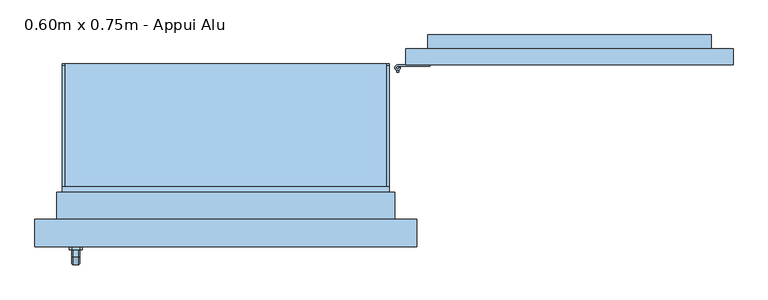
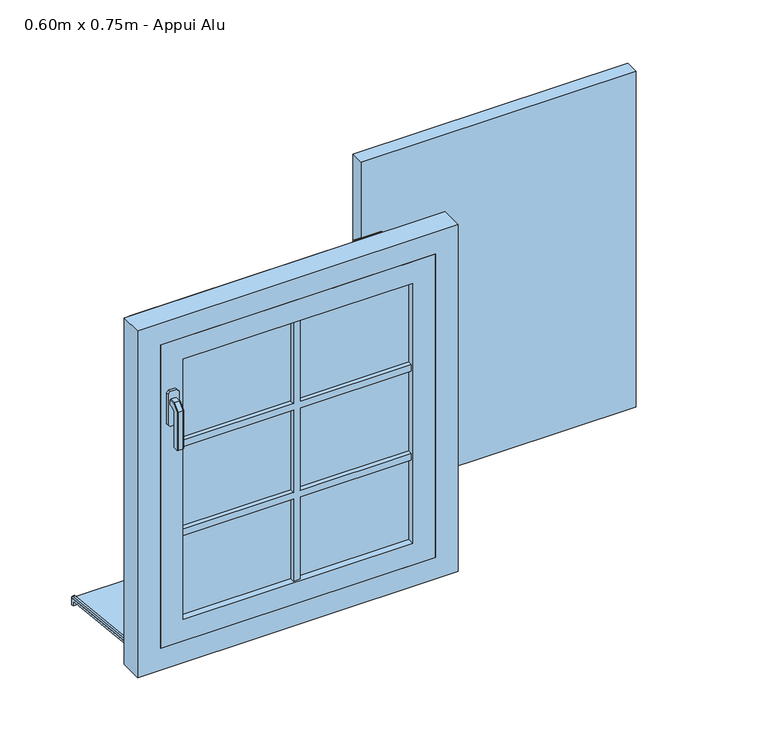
"""IFC4 building model written with IfcOpenShell, lengths in millimetres: window geometry, 1 Vantail droit - Volet et petits bois : 0.60m x 0.75m - Appui Alu."""

from ifc_helpers import new_model, si_unit, point, frame, frame_2d, origin, place, context, project, spatial, polyline, circle_curve, trimmed, segment, composite_curve, outline, extrude, faceted_brep, source, transform, mapped, element, save
from ifc_brep_helpers import plane_surface, cylinder_surface, advanced_brep


def window_0_60m_x_0_75m_appui_alu_5fc1b312(model_context):
    return source(origin(), model_context, "Body", "SolidModel", [
        extrude(outline(polyline([(930.0, 173.0), (330.0, 173.0), (330.0, 203.0), (930.0, 203.0), (930.0, 173.0)])), frame((0.0, 0.0, 775.0), z_axis=(0.0, 0.0, 1.0), x_axis=(1.0, 0.0, 0.0)), (0.0, 0.0, 1.0), 775.0),
        advanced_brep(
        [(310.0, 168.0, 975.0), (320.0, 168.0, 975.0), (310.0, 168.0, 950.0), (320.0, 168.0, 950.0), (317.0, 163.4174243, 955.0), (313.0, 163.4174243, 955.0), (313.0, 163.4174243, 965.0), (317.0, 163.4174243, 965.0), (313.0, 160.0, 965.0), (317.0, 160.0, 965.0), (317.0, 160.0, 955.0), (313.0, 160.0, 955.0)],
        [
            (0, 1, circle_curve(frame((315.0, 168.0, 975.0), z_axis=(0.0, 0.0, 1.0), x_axis=(1.0, 0.0, 0.0)), 5.0)),
            (1, 0, circle_curve(frame((315.0, 168.0, 975.0), z_axis=(0.0, 0.0, 1.0), x_axis=(1.0, 0.0, 0.0)), 5.0)),
            (2, 3, circle_curve(frame((315.0, 168.0, 950.0), z_axis=(0.0, 0.0, -1.0), x_axis=(1.0, 0.0, 0.0)), 5.0)),
            (3, 2, circle_curve(frame((315.0, 168.0, 950.0), z_axis=(0.0, 0.0, -1.0), x_axis=(1.0, 0.0, 0.0)), 5.0)),
            (0, 2),
            (3, 1),
            (4, 5, circle_curve(frame((315.0, 168.0, 955.0), z_axis=(0.0, 0.0, -1.0), x_axis=(1.0, 0.0, 0.0)), 5.0)),
            (5, 6),
            (6, 7, circle_curve(frame((315.0, 168.0, 965.0), z_axis=(0.0, 0.0, 1.0), x_axis=(1.0, 0.0, 0.0)), 5.0)),
            (7, 4),
            (8, 9),
            (9, 7),
            (6, 8),
            (10, 11),
            (11, 5),
            (4, 10),
            (9, 10),
            (11, 8),
        ],
        [
            plane_surface(frame((320.0, 168.0, 975.0), z_axis=(0.0, 0.0, 1.0), x_axis=(0.0, 1.0, 0.0))),
            plane_surface(frame((320.0, 168.0, 950.0), z_axis=(0.0, 0.0, -1.0), x_axis=(0.0, -1.0, 0.0))),
            cylinder_surface(frame((315.0, 168.0, 950.0), z_axis=(0.0, 0.0, 1.0), x_axis=(1.0, 0.0, 0.0)), 5.0),
            plane_surface(frame((317.0, 160.0, 965.0), z_axis=(0.0, 0.0, 1.0), x_axis=(0.0, 1.0, 0.0))),
            plane_surface(frame((317.0, 160.0, 955.0), z_axis=(0.0, 0.0, -1.0), x_axis=(0.0, -1.0, 0.0))),
            plane_surface(frame((317.0, 160.0, 965.0), z_axis=(1.0, 0.0, 0.0), x_axis=(0.0, 0.0, -1.0))),
            plane_surface(frame((313.0, 165.0, 965.0), z_axis=(-1.0, 0.0, 0.0), x_axis=(0.0, 0.0, -1.0))),
            plane_surface(frame((313.0, 160.0, 965.0), z_axis=(0.0, -1.0, 0.0), x_axis=(0.0, 0.0, -1.0))),
        ],
        [
            (0, [[1, 2]]),
            (1, [[3, 4]]),
            (2, [[-1, 5, -4, 6], [7, 8, 9, 10]]),
            (2, [[-2, -6, -3, -5]]),
            (3, [[11, 12, -9, 13]]),
            (4, [[14, 15, -7, 16]]),
            (5, [[17, -16, -10, -12]]),
            (6, [[18, -13, -8, -15]]),
            (7, [[-11, -18, -14, -17]]),
        ],
    ),
        extrude(outline(composite_curve([segment(polyline([(315.0, 173.0), (374.3092325, 173.0), (374.3092325, 170.5), (315.0, 170.5)]), True, "CONTINUOUS"), segment(trimmed(circle_curve(frame_2d((315.0, 168.0)), 2.5), [point((315.0, 170.5))], [point((317.5, 168.0))], True, "CARTESIAN"), True, "CONTINUOUS"), segment(polyline([(317.5, 168.0), (320.0, 168.0)]), True, "CONTINUOUS"), segment(trimmed(circle_curve(frame_2d((315.0, 168.0)), 5.0), [point((320.0, 168.0))], [point((315.0, 173.0))], False, "CARTESIAN"), True, "CONTINUOUS")], self_intersect=False)), frame((0.0, 0.0, 975.0), z_axis=(0.0, 0.0, 1.0), x_axis=(1.0, 0.0, 0.0)), (0.0, 0.0, 1.0), 25.0),
        extrude(outline(composite_curve([segment(trimmed(circle_curve(frame_2d((315.0, 168.0)), 2.5), [point((312.5, 168.0))], [point((317.5, 168.0))], False, "CARTESIAN"), True, "CONTINUOUS"), segment(trimmed(circle_curve(frame_2d((315.0, 168.0)), 2.5), [point((317.5, 168.0))], [point((312.5, 168.0))], False, "CARTESIAN"), True, "CONTINUOUS")], self_intersect=False)), frame((0.0, 0.0, 975.0), z_axis=(0.0, 0.0, 1.0), x_axis=(1.0, 0.0, 0.0)), (0.0, 0.0, 1.0), 25.0),
        advanced_brep(
        [(310.0, 168.0, 1350.0), (320.0, 168.0, 1350.0), (310.0, 168.0, 1325.0), (320.0, 168.0, 1325.0), (313.0, 163.4174243, 1340.0), (317.0, 163.4174243, 1340.0), (317.0, 163.4174243, 1330.0), (313.0, 163.4174243, 1330.0), (313.0, 160.0, 1340.0), (317.0, 160.0, 1340.0), (313.0, 160.0, 1330.0), (317.0, 160.0, 1330.0)],
        [
            (0, 1, circle_curve(frame((315.0, 168.0, 1350.0), z_axis=(0.0, 0.0, 1.0), x_axis=(1.0, 0.0, 0.0)), 5.0)),
            (1, 0, circle_curve(frame((315.0, 168.0, 1350.0), z_axis=(0.0, 0.0, 1.0), x_axis=(1.0, 0.0, 0.0)), 5.0)),
            (2, 3, circle_curve(frame((315.0, 168.0, 1325.0), z_axis=(0.0, 0.0, -1.0), x_axis=(1.0, 0.0, 0.0)), 5.0)),
            (3, 2, circle_curve(frame((315.0, 168.0, 1325.0), z_axis=(0.0, 0.0, -1.0), x_axis=(1.0, 0.0, 0.0)), 5.0)),
            (0, 2),
            (3, 1),
            (4, 5, circle_curve(frame((315.0, 168.0, 1340.0), z_axis=(0.0, 0.0, 1.0), x_axis=(1.0, 0.0, 0.0)), 5.0)),
            (5, 6),
            (6, 7, circle_curve(frame((315.0, 168.0, 1330.0), z_axis=(0.0, 0.0, -1.0), x_axis=(1.0, 0.0, 0.0)), 5.0)),
            (7, 4),
            (8, 9),
            (9, 5),
            (4, 8),
            (10, 7),
            (6, 11),
            (11, 10),
            (8, 10),
            (11, 9),
        ],
        [
            plane_surface(frame((320.0, 168.0, 1350.0), z_axis=(0.0, 0.0, 1.0), x_axis=(0.0, 1.0, 0.0))),
            plane_surface(frame((320.0, 168.0, 1325.0), z_axis=(0.0, 0.0, -1.0), x_axis=(0.0, -1.0, 0.0))),
            cylinder_surface(frame((315.0, 168.0, 1325.0), z_axis=(0.0, 0.0, 1.0), x_axis=(1.0, 0.0, 0.0)), 5.0),
            plane_surface(frame((313.0, 160.0, 1340.0), z_axis=(0.0, 0.0, 1.0), x_axis=(1.0, 0.0, 0.0))),
            plane_surface(frame((313.0, 160.0, 1330.0), z_axis=(0.0, 0.0, -1.0), x_axis=(-1.0, 0.0, 0.0))),
            plane_surface(frame((313.0, 160.0, 1340.0), z_axis=(0.0, -1.0, 0.0), x_axis=(0.0, 0.0, -1.0))),
            plane_surface(frame((317.0, 160.0, 1340.0), z_axis=(1.0, 0.0, 0.0), x_axis=(0.0, 0.0, -1.0))),
            plane_surface(frame((313.0, 163.4174243, 1340.0), z_axis=(-1.0, 0.0, 0.0), x_axis=(0.0, 0.0, -1.0))),
        ],
        [
            (0, [[1, 2]]),
            (1, [[3, 4]]),
            (2, [[-1, 5, -4, 6], [7, 8, 9, 10]]),
            (2, [[-2, -6, -3, -5]]),
            (3, [[11, 12, -7, 13]]),
            (4, [[14, -9, 15, 16]]),
            (5, [[-11, 17, -16, 18]]),
            (6, [[-12, -18, -15, -8]]),
            (7, [[-13, -10, -14, -17]]),
        ],
    ),
        extrude(outline(composite_curve([segment(polyline([(315.0, 173.0), (374.3092325, 173.0), (374.3092325, 170.5), (315.0, 170.5)]), True, "CONTINUOUS"), segment(trimmed(circle_curve(frame_2d((315.0, 168.0)), 2.5), [point((315.0, 170.5))], [point((317.5, 168.0))], True, "CARTESIAN"), True, "CONTINUOUS"), segment(polyline([(317.5, 168.0), (320.0, 168.0)]), True, "CONTINUOUS"), segment(trimmed(circle_curve(frame_2d((315.0, 168.0)), 5.0), [point((320.0, 168.0))], [point((315.0, 173.0))], False, "CARTESIAN"), True, "CONTINUOUS")], self_intersect=False)), frame((0.0, 0.0, 1350.0), z_axis=(0.0, 0.0, 1.0), x_axis=(1.0, 0.0, 0.0)), (0.0, 0.0, 1.0), 25.0),
        extrude(outline(composite_curve([segment(trimmed(circle_curve(frame_2d((315.0, 168.0)), 2.5), [point((312.5, 168.0))], [point((317.5, 168.0))], False, "CARTESIAN"), True, "CONTINUOUS"), segment(trimmed(circle_curve(frame_2d((315.0, 168.0)), 2.5), [point((317.5, 168.0))], [point((312.5, 168.0))], False, "CARTESIAN"), True, "CONTINUOUS")], self_intersect=False)), frame((0.0, 0.0, 1350.0), z_axis=(0.0, 0.0, 1.0), x_axis=(1.0, 0.0, 0.0)), (0.0, 0.0, 1.0), 25.0),
        extrude(outline(polyline([(1310.0, 890.0), (1310.0, 757.8528094), (1015.0, 370.0007252), (1015.0, 502.1479158), (1310.0, 890.0)])), frame((0.0, 203.0, 0.0), z_axis=(0.0, 1.0, 0.0), x_axis=(0.0, 0.0, 1.0)), (0.0, 0.0, 1.0), 25.0),
        extrude(outline(polyline([(370.0, 228.0), (890.0, 228.0), (890.0, 203.0), (370.0, 203.0), (370.0, 228.0)])), frame((0.0, 0.0, 1310.0), z_axis=(0.0, 0.0, 1.0), x_axis=(1.0, 0.0, 0.0)), (0.0, 0.0, 1.0), 80.0),
        extrude(outline(polyline([(370.0, 228.0), (890.0, 228.0), (890.0, 203.0), (370.0, 203.0), (370.0, 228.0)])), frame((0.0, 0.0, 935.0), z_axis=(0.0, 0.0, 1.0), x_axis=(1.0, 0.0, 0.0)), (0.0, 0.0, 1.0), 80.0),
        extrude(outline(polyline([(1310.0, -250.0), (1295.0, -250.0), (1295.0, -7.5), (1105.0, -7.5), (1105.0, -250.0), (1090.0, -250.0), (1090.0, -7.5), (900.0, -7.5), (900.0, 7.5), (1090.0, 7.5), (1090.0, 250.0), (1105.0, 250.0), (1105.0, 7.5), (1295.0, 7.5), (1295.0, 250.0), (1310.0, 250.0), (1310.0, 7.5), (1500.0, 7.5), (1500.0, -7.5), (1310.0, -7.5), (1310.0, -250.0)])), frame((0.0, -134.0, 0.0), z_axis=(0.0, 1.0, 0.0), x_axis=(0.0, 0.0, 1.0)), (0.0, 0.0, 1.0), 10.0),
        extrude(outline(polyline([(1310.0, -250.0), (1295.0, -250.0), (1295.0, -7.5), (1105.0, -7.5), (1105.0, -250.0), (1090.0, -250.0), (1090.0, -7.5), (900.0, -7.5), (900.0, 7.5), (1090.0, 7.5), (1090.0, 250.0), (1105.0, 250.0), (1105.0, 7.5), (1295.0, 7.5), (1295.0, 250.0), (1310.0, 250.0), (1310.0, 7.5), (1500.0, 7.5), (1500.0, -7.5), (1310.0, -7.5), (1310.0, -250.0)])), frame((0.0, -156.0, 0.0), z_axis=(0.0, 1.0, 0.0), x_axis=(0.0, 0.0, 1.0)), (0.0, 0.0, 1.0), 10.0),
        faceted_brep([(-269.3539903, -166.0, 1422.0339292), (-267.9660708, -166.0, 1420.6460097), (-267.9660708, -166.0, 1409.3323012), (-269.3323012, -166.0, 1407.9660708), (-280.6676988, -166.0, 1407.9660708), (-282.0339292, -166.0, 1409.3323012), (-282.0339292, -166.0, 1420.6460097), (-280.6460097, -166.0, 1422.0339292), (-269.3539903, -178.9135489, 1422.0339292), (-267.9660708, -178.3386538, 1420.6460097), (-267.9660708, -191.6460097, 1407.3386538), (-267.9660708, -191.6460097, 1320.0), (-267.9660708, -180.3323012, 1320.0), (-267.9660708, -180.3323012, 1402.6523623), (-267.9660708, -173.6523623, 1409.3323012), (-269.3323012, -173.0864511, 1407.9660708), (-280.6676988, -173.0864511, 1407.9660708), (-282.0339292, -173.6523623, 1409.3323012), (-282.0339292, -180.3323012, 1402.6523623), (-282.0339292, -180.3323012, 1320.0), (-282.0339292, -191.6460097, 1320.0), (-282.0339292, -191.6460097, 1407.3386538), (-282.0339292, -178.3386538, 1420.6460097), (-280.6460097, -178.9135489, 1422.0339292), (-269.3539903, -193.0339292, 1407.9135489), (-269.3323012, -178.9660708, 1402.0864511), (-280.6676988, -178.9660708, 1402.0864511), (-280.6460097, -193.0339292, 1407.9135489), (-269.3539903, -193.0339292, 1320.0), (-280.6460097, -193.0339292, 1320.0), (-280.6676988, -178.9660708, 1320.0), (-269.3323012, -178.9660708, 1320.0)], [[[0, 1, 2, 3, 4, 5, 6, 7]], [[1, 0, 8, 9]], [[2, 1, 9, 10, 11, 12, 13, 14]], [[3, 2, 14, 15]], [[4, 3, 15, 16]], [[5, 4, 16, 17]], [[6, 5, 17, 18, 19, 20, 21, 22]], [[7, 6, 22, 23]], [[0, 7, 23, 8]], [[9, 8, 24, 10]], [[15, 14, 13, 25]], [[16, 15, 25, 26]], [[17, 16, 26, 18]], [[23, 22, 21, 27]], [[8, 23, 27, 24]], [[28, 29, 20, 19, 30, 31, 12, 11]], [[10, 24, 28, 11]], [[25, 13, 12, 31]], [[26, 25, 31, 30]], [[18, 26, 30, 19]], [[27, 21, 20, 29]], [[24, 27, 29, 28]]]),
        extrude(outline(polyline([(1440.0, -268.0), (1440.0, -282.0), (1435.0, -287.0), (1365.0, -287.0), (1360.0, -282.0), (1360.0, -268.0), (1365.0, -263.0), (1435.0, -263.0), (1440.0, -268.0)])), frame((0.0, -166.0, 0.0), z_axis=(0.0, 1.0, 0.0), x_axis=(0.0, 0.0, 1.0)), (0.0, 0.0, 1.0), 6.0),
        extrude(outline(polyline([(175.0, 763.4536318), (175.0, 747.8979153), (170.0, 748.4234365), (170.0, 758.7239412), (-80.0, 785.0), (-80.0, 800.0), (-75.0, 800.0), (-75.0, 789.7296906), (175.0, 763.4536318)])), frame((-300.0, 0.0, 0.0), z_axis=(1.0, 0.0, 0.0), x_axis=(0.0, 1.0, 0.0)), (0.0, 0.0, 1.0), 600.0),
        extrude(outline(composite_curve([segment(polyline([(175.0, 763.4536318), (-75.0, 789.7296906), (-75.0, 794.757232), (171.4181139, 768.8576446)]), True, "CONTINUOUS"), segment(trimmed(circle_curve(frame_2d((171.0, 764.879557)), 4.0), [point((171.4181139, 768.8576446))], [point((175.0, 764.879557))], False, "CARTESIAN"), True, "CONTINUOUS"), segment(polyline([(175.0, 764.879557), (175.0, 763.4536318)]), True, "CONTINUOUS")], self_intersect=False)), frame((-300.0, 0.0, 0.0), z_axis=(1.0, 0.0, 0.0), x_axis=(0.0, 1.0, 0.0)), (0.0, 0.0, 1.0), 5.0),
        extrude(outline(composite_curve([segment(polyline([(175.0, 763.4536318), (-75.0, 789.7296906), (-75.0, 794.757232), (171.4181139, 768.8576446)]), True, "CONTINUOUS"), segment(trimmed(circle_curve(frame_2d((171.0, 764.879557)), 4.0), [point((171.4181139, 768.8576446))], [point((175.0, 764.879557))], False, "CARTESIAN"), True, "CONTINUOUS"), segment(polyline([(175.0, 764.879557), (175.0, 763.4536318)]), True, "CONTINUOUS")], self_intersect=False)), frame((295.0, 0.0, 0.0), z_axis=(1.0, 0.0, 0.0), x_axis=(0.0, 1.0, 0.0)), (0.0, 0.0, 1.0), 5.0),
        extrude(outline(polyline([(-250.0, -134.0), (250.0, -134.0), (250.0, -146.0), (-250.0, -146.0), (-250.0, -134.0)])), frame((0.0, 0.0, 900.0), z_axis=(0.0, 0.0, 1.0), x_axis=(1.0, 0.0, 0.0)), (0.0, 0.0, 1.0), 600.0),
        extrude(outline(polyline([(850.0, 300.0), (1550.0, 300.0), (1550.0, -300.0), (850.0, -300.0), (850.0, 300.0)]), holes=[polyline([(900.0, -250.0), (1500.0, -250.0), (1500.0, 250.0), (900.0, 250.0), (900.0, -250.0)])]), frame((0.0, -160.0, 0.0), z_axis=(0.0, 1.0, 0.0), x_axis=(0.0, 0.0, 1.0)), (0.0, 0.0, 1.0), 40.0),
        faceted_brep([(-350.0, -160.0, 800.0), (-350.0, -110.0, 800.0), (-300.0, -110.0, 800.0), (-300.0, -60.0, 800.0), (300.0, -60.0, 800.0), (300.0, -110.0, 800.0), (350.0, -110.0, 800.0), (350.0, -160.0, 800.0), (-350.0, -160.0, 1600.0), (-350.0, -110.0, 1600.0), (350.0, -110.0, 1600.0), (300.0, -110.0, 839.3761425), (-300.0, -110.0, 839.3761425), (-285.0, -110.0, 1535.0), (-285.0, -110.0, 865.0), (285.0, -110.0, 865.0), (285.0, -110.0, 1535.0), (-300.0, -50.0, 823.2991909), (-300.0, -50.0, 795.0), (-300.0, -60.0, 795.0), (300.0, -60.0, 795.0), (300.0, -50.0, 795.0), (300.0, -50.0, 823.2991909), (350.0, -160.0, 1600.0), (300.0, -160.0, 1550.0), (300.0, -160.0, 850.0), (-300.0, -160.0, 850.0), (-300.0, -160.0, 1550.0), (-285.0, -120.0, 1535.0), (-285.0, -120.0, 865.0), (285.0, -120.0, 865.0), (285.0, -120.0, 1535.0), (300.0, -120.0, 1550.0), (-300.0, -120.0, 1550.0), (-300.0, -120.0, 850.0), (300.0, -120.0, 850.0)], [[[0, 1, 2, 3, 4, 5, 6, 7]], [[1, 0, 8, 9]], [[1, 9, 10, 6, 5, 11, 12, 2], [13, 14, 15, 16]], [[12, 17, 18, 19, 3, 2]], [[3, 19, 20, 4]], [[4, 20, 21, 22, 11, 5]], [[6, 10, 23, 7]], [[0, 7, 23, 8], [24, 25, 26, 27]], [[13, 28, 29, 14]], [[29, 30, 15, 14]], [[31, 16, 15, 30]], [[17, 12, 11, 22]], [[32, 33, 34, 35], [28, 31, 30, 29]], [[34, 33, 27, 26]], [[26, 25, 35, 34]], [[24, 32, 35, 25]], [[18, 17, 22, 21]], [[19, 18, 21, 20]], [[13, 16, 31, 28]], [[33, 32, 24, 27]], [[10, 9, 8, 23]]]),
        extrude(outline(polyline([(800.0, -310.0), (800.0, -300.0), (1550.0, -300.0), (1550.0, 300.0), (800.0, 300.0), (800.0, 310.0), (1560.0, 310.0), (1560.0, -310.0), (800.0, -310.0)])), frame((0.0, -110.0, 0.0), z_axis=(0.0, 1.0, 0.0), x_axis=(0.0, 0.0, 1.0)), (0.0, 0.0, 1.0), 50.0),
    ])


if __name__ == "__main__":
    model = new_model("IFC4")
    model_context = context("Model", 3, world=origin())
    ifc_project = project(units=[si_unit("LENGTHUNIT", "METRE", prefix="MILLI")], contexts=[model_context])
    site = spatial("IfcSite", under=ifc_project)
    building = spatial("IfcBuilding", under=site)
    placement = place(None, origin())
    window_0_60m_x_0_75m_appui_alu_shape = window_0_60m_x_0_75m_appui_alu_5fc1b312(model_context)
    element("IfcWindow", 1, ObjectType="1 Vantail droit - Volet et petits bois : 0.60m x 0.75m - Appui Alu", at=placement, inside=building, context=model_context, shape_type="MappedRepresentation", body=[
        mapped(window_0_60m_x_0_75m_appui_alu_shape, transform((0.0, 0.0, 0.0), x_axis=(1.0, 0.0, 0.0), y_axis=(0.0, 1.0, 0.0), z_axis=(0.0, 0.0, 1.0))),
    ])
    save(model, "model.ifc")
